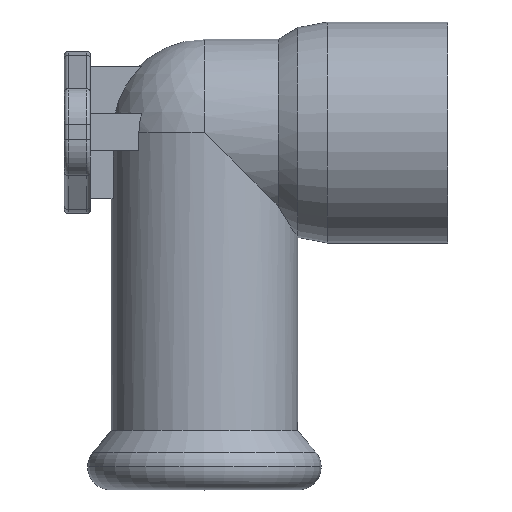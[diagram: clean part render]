
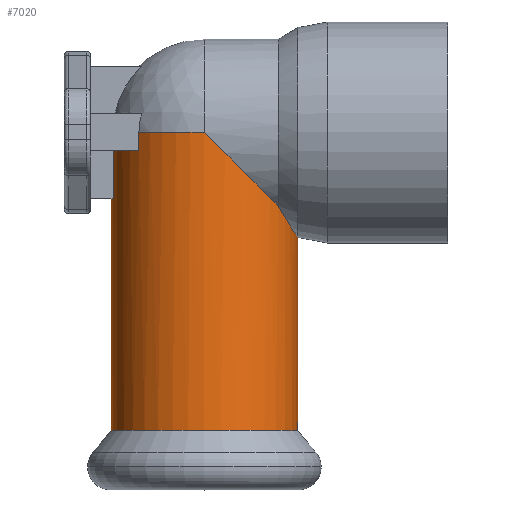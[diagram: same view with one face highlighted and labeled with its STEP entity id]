
A CAD part, top view. The second image highlights one B-rep face of the part: STEP entity #7020.
In plain terms, the highlighted cylindrical face has radius 12.65 mm (diameter 25.3 mm), a partial arc.
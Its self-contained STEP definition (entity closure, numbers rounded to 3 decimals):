
#5080=CARTESIAN_POINT('',(-306.641,56.893,0.));
#5090=VERTEX_POINT('',#5080);
#5270=CARTESIAN_POINT('',(-331.941,56.893,
0.));
#5280=VERTEX_POINT('',#5270);
#5310=CARTESIAN_POINT('',(-319.291,56.893,0.));
#5320=DIRECTION('',(0.,1.,0.));
#5330=DIRECTION('',(-1.,0.,0.));
#5340=AXIS2_PLACEMENT_3D('',#5310,#5320,#5330);
#5350=CIRCLE('',#5340,12.65);
#5360=EDGE_CURVE('',#5090,#5280,#5350,.T.);
#5410=CARTESIAN_POINT('',(-319.291,50.141,0.));
#5420=DIRECTION('',(0.,-1.,0.));
#5430=DIRECTION('',(-1.,0.,0.));
#5440=AXIS2_PLACEMENT_3D('',#5410,#5420,#5430);
#5450=CYLINDRICAL_SURFACE('',#5440,12.65);
#5460=CARTESIAN_POINT('',(-319.291,16.435,0.));
#5470=DIRECTION('',(0.707,-0.707,0.));
#5480=DIRECTION('',(-0.707,-0.707,0.));
#5490=AXIS2_PLACEMENT_3D('',#5460,#5470,#5480);
#5500=ELLIPSE('',#5490,17.89,12.65);
#5510=CARTESIAN_POINT('',(-319.291,16.435,-12.65));
#5520=VERTEX_POINT('',#5510);
#5530=CARTESIAN_POINT('',(-309.291,26.435,
-7.747));
#5540=VERTEX_POINT('',#5530);
#5550=EDGE_CURVE('',#5520,#5540,#5500,.T.);
#5560=ORIENTED_EDGE('',*,*,#5550,.F.);
#5570=CARTESIAN_POINT('',(-306.591,16.435,0.));
#5580=DIRECTION('',(1.,0.,0.));
#5590=DIRECTION('',(0.,1.,0.));
#5600=AXIS2_PLACEMENT_3D('',#5570,#5580,#5590);
#5610=CONICAL_SURFACE('',#5600,14.25,0.535);
#5620=CARTESIAN_POINT('',(-309.291,26.435,
-7.747));
#5630=CARTESIAN_POINT('',(-309.207,26.581,
-7.639));
#5640=CARTESIAN_POINT('',(-309.124,26.726,
-7.528));
#5650=CARTESIAN_POINT('',(-309.041,26.867,
-7.413));
#5660=CARTESIAN_POINT('',(-308.958,27.009,
-7.298));
#5670=CARTESIAN_POINT('',(-308.875,27.148,
-7.18));
#5680=CARTESIAN_POINT('',(-308.794,27.285,
-7.059));
#5690=CARTESIAN_POINT('',(-308.753,27.353,
-6.999));
#5700=CARTESIAN_POINT('',(-308.713,27.421,
-6.937));
#5710=CARTESIAN_POINT('',(-308.672,27.488,
-6.875));
#5720=CARTESIAN_POINT('',(-308.632,27.554,
-6.813));
#5730=CARTESIAN_POINT('',(-308.592,27.621,
-6.75));
#5740=CARTESIAN_POINT('',(-308.552,27.686,
-6.685));
#5750=CARTESIAN_POINT('',(-308.472,27.817,
-6.557));
#5760=CARTESIAN_POINT('',(-308.393,27.946,
-6.425));
#5770=CARTESIAN_POINT('',(-308.315,28.072,
-6.29));
#5780=CARTESIAN_POINT('',(-308.238,28.198,
-6.154));
#5790=CARTESIAN_POINT('',(-308.161,28.32,
-6.014));
#5800=CARTESIAN_POINT('',(-308.086,28.44,
-5.871));
#5810=CARTESIAN_POINT('',(-308.011,28.559,
-5.728));
#5820=CARTESIAN_POINT('',(-307.937,28.676,
-5.581));
#5830=CARTESIAN_POINT('',(-307.866,28.788,
-5.43));
#5840=CARTESIAN_POINT('',(-307.794,28.901,
-5.28));
#5850=CARTESIAN_POINT('',(-307.725,29.009,
-5.126));
#5860=CARTESIAN_POINT('',(-307.658,29.114,
-4.968));
#5870=CARTESIAN_POINT('',(-307.59,29.218,
-4.811));
#5880=CARTESIAN_POINT('',(-307.525,29.319,
-4.65));
#5890=CARTESIAN_POINT('',(-307.463,29.414,
-4.486));
#5900=CARTESIAN_POINT('',(-307.432,29.462,
-4.404));
#5910=CARTESIAN_POINT('',(-307.402,29.509,
-4.321));
#5920=CARTESIAN_POINT('',(-307.372,29.555,
-4.237));
#5930=CARTESIAN_POINT('',(-307.357,29.577,
-4.195));
#5940=CARTESIAN_POINT('',(-307.342,29.6,
-4.153));
#5950=CARTESIAN_POINT('',(-307.328,29.622,
-4.111));
#5960=CARTESIAN_POINT('',(-307.313,29.644,
-4.069));
#5970=CARTESIAN_POINT('',(-307.299,29.666,
-4.026));
#5980=CARTESIAN_POINT('',(-307.285,29.688,
-3.983));
#5990=CARTESIAN_POINT('',(-307.256,29.731,
-3.898));
#6000=CARTESIAN_POINT('',(-307.229,29.773,
-3.811));
#6010=CARTESIAN_POINT('',(-307.202,29.814,
-3.724));
#6020=CARTESIAN_POINT('',(-307.175,29.855,
-3.637));
#6030=CARTESIAN_POINT('',(-307.149,29.895,
-3.548));
#6040=CARTESIAN_POINT('',(-307.123,29.933,
-3.459));
#6050=CARTESIAN_POINT('',(-307.098,29.971,
-3.37));
#6060=CARTESIAN_POINT('',(-307.073,30.008,
-3.28));
#6070=CARTESIAN_POINT('',(-307.05,30.044,
-3.189));
#6080=CARTESIAN_POINT('',(-307.026,30.08,
-3.098));
#6090=CARTESIAN_POINT('',(-307.003,30.114,
-3.007));
#6100=CARTESIAN_POINT('',(-306.981,30.147,
-2.915));
#6110=CARTESIAN_POINT('',(-306.96,30.18,
-2.822));
#6120=CARTESIAN_POINT('',(-306.939,30.211,
-2.729));
#6130=CARTESIAN_POINT('',(-306.919,30.241,
-2.636));
#6140=CARTESIAN_POINT('',(-306.899,30.271,
-2.542));
#6150=CARTESIAN_POINT('',(-306.88,30.299,
-2.448));
#6160=CARTESIAN_POINT('',(-306.862,30.326,
-2.353));
#6170=CARTESIAN_POINT('',(-306.826,30.38,
-2.164));
#6180=CARTESIAN_POINT('',(-306.794,30.427,
-1.972));
#6190=CARTESIAN_POINT('',(-306.767,30.468,
-1.778));
#6200=CARTESIAN_POINT('',(-306.753,30.489,
-1.682));
#6210=CARTESIAN_POINT('',(-306.74,30.508,
-1.584));
#6220=CARTESIAN_POINT('',(-306.729,30.525,
-1.487));
#6230=CARTESIAN_POINT('',(-306.717,30.542,
-1.389));
#6240=CARTESIAN_POINT('',(-306.707,30.557,
-1.291));
#6250=CARTESIAN_POINT('',(-306.697,30.571,
-1.192));
#6260=CARTESIAN_POINT('',(-306.688,30.585,
-1.094));
#6270=CARTESIAN_POINT('',(-306.68,30.597,
-0.995));
#6280=CARTESIAN_POINT('',(-306.673,30.608,
-0.896));
#6290=CARTESIAN_POINT('',(-306.666,30.618,
-0.797));
#6300=CARTESIAN_POINT('',(-306.66,30.627,
-0.698));
#6310=CARTESIAN_POINT('',(-306.655,30.634,
-0.598));
#6320=CARTESIAN_POINT('',(-306.65,30.641,
-0.499));
#6330=CARTESIAN_POINT('',(-306.647,30.646,
-0.399));
#6340=CARTESIAN_POINT('',(-306.645,30.65,
-0.299));
#6350=CARTESIAN_POINT('',(-306.642,30.653,
-0.2));
#6360=CARTESIAN_POINT('',(-306.641,30.655,
-0.1));
#6370=CARTESIAN_POINT('',(-306.641,30.655,
0.));
#6380=B_SPLINE_CURVE_WITH_KNOTS('',3,(#5620,#5630,#5640,#5650,#5660,
#5670,#5680,#5690,#5700,#5710,#5720,#5730,#5740,#5750,#5760,#5770,#5780,
#5790,#5800,#5810,#5820,#5830,#5840,#5850,#5860,#5870,#5880,#5890,#5900,
#5910,#5920,#5930,#5940,#5950,#5960,#5970,#5980,#5990,#6000,#6010,#6020,
#6030,#6040,#6050,#6060,#6070,#6080,#6090,#6100,#6110,#6120,#6130,#6140,
#6150,#6160,#6170,#6180,#6190,#6200,#6210,#6220,#6230,#6240,#6250,#6260,
#6270,#6280,#6290,#6300,#6310,#6320,#6330,#6340,#6350,#6360,#6370),
.UNSPECIFIED.,.F.,.F.,(4,3,3,3,3,3,3,3,3,3,3,3,3,3,3,3,3,3,3,3,3,3,3,3,3
,4),(0.,0.602,1.202,1.502,
1.801,2.403,3.006,3.609,
4.211,4.812,5.112,5.262,
5.412,5.712,6.013,6.314,
6.615,6.916,7.216,7.816,
8.116,8.415,8.715,9.014,
9.314,9.613),.UNSPECIFIED.);
#6390=SURFACE_CURVE('',#6380,(#5450,#5610),.CURVE_3D.);
#6400=CARTESIAN_POINT('',(-306.641,30.655,
0.));
#6410=VERTEX_POINT('',#6400);
#6420=EDGE_CURVE('',#5540,#6410,#6390,.T.);
#6430=ORIENTED_EDGE('',*,*,#6420,.F.);
#6440=CARTESIAN_POINT('',(-306.641,50.141,
0.));
#6450=DIRECTION('',(0.,-1.,0.));
#6460=VECTOR('',#6450,1.);
#6470=LINE('',#6440,#6460);
#6480=EDGE_CURVE('',#5090,#6410,#6470,.T.);
#6490=ORIENTED_EDGE('',*,*,#6480,.T.);
#6500=ORIENTED_EDGE('',*,*,#5360,.F.);
#6510=CARTESIAN_POINT('',(-331.941,50.141,0.));
#6520=DIRECTION('',(0.,-1.,0.));
#6530=VECTOR('',#6520,1.);
#6540=LINE('',#6510,#6530);
#6550=CARTESIAN_POINT('',(-331.941,25.435,0.));
#6560=VERTEX_POINT('',#6550);
#6570=EDGE_CURVE('',#5280,#6560,#6540,.T.);
#6580=ORIENTED_EDGE('',*,*,#6570,.F.);
#6590=CARTESIAN_POINT('',(-319.291,25.435,0.));
#6600=DIRECTION('',(0.,-1.,0.));
#6610=DIRECTION('',(-1.,0.,0.));
#6620=AXIS2_PLACEMENT_3D('',#6590,#6600,#6610);
#6630=CIRCLE('',#6620,12.65);
#6640=CARTESIAN_POINT('',(-331.692,25.435,-2.5));
#6650=VERTEX_POINT('',#6640);
#6660=EDGE_CURVE('',#6560,#6650,#6630,.T.);
#6670=ORIENTED_EDGE('',*,*,#6660,.F.);
#6680=CARTESIAN_POINT('',(-331.692,50.141,-2.5));
#6690=DIRECTION('',(0.,-1.,0.));
#6700=VECTOR('',#6690,1.);
#6710=LINE('',#6680,#6700);
#6720=CARTESIAN_POINT('',(-331.692,18.935,-2.5));
#6730=VERTEX_POINT('',#6720);
#6740=EDGE_CURVE('',#6650,#6730,#6710,.T.);
#6750=ORIENTED_EDGE('',*,*,#6740,.F.);
#6760=CARTESIAN_POINT('',(-319.291,18.935,0.));
#6770=DIRECTION('',(0.,-1.,0.));
#6780=DIRECTION('',(-1.,0.,0.));
#6790=AXIS2_PLACEMENT_3D('',#6760,#6770,#6780);
#6800=CIRCLE('',#6790,12.65);
#6810=CARTESIAN_POINT('',(-328.181,18.935,-9.));
#6820=VERTEX_POINT('',#6810);
#6830=EDGE_CURVE('',#6730,#6820,#6800,.T.);
#6840=ORIENTED_EDGE('',*,*,#6830,.F.);
#6850=CARTESIAN_POINT('',(-328.181,50.141,-9.));
#6860=DIRECTION('',(0.,-1.,0.));
#6870=VECTOR('',#6860,1.);
#6880=LINE('',#6850,#6870);
#6890=CARTESIAN_POINT('',(-328.181,16.435,
-9.));
#6900=VERTEX_POINT('',#6890);
#6910=EDGE_CURVE('',#6820,#6900,#6880,.T.);
#6920=ORIENTED_EDGE('',*,*,#6910,.F.);
#6930=CARTESIAN_POINT('',(-319.291,16.435,
0.));
#6940=DIRECTION('',(0.,1.,0.));
#6950=DIRECTION('',(1.,0.,0.));
#6960=AXIS2_PLACEMENT_3D('',#6930,#6940,#6950);
#6970=CIRCLE('',#6960,12.65);
#6980=EDGE_CURVE('',#5520,#6900,#6970,.T.);
#6990=ORIENTED_EDGE('',*,*,#6980,.T.);
#7000=EDGE_LOOP('',(#6990,#6920,#6840,#6750,#6670,#6580,#6500,#6490,
#6430,#5560));
#7010=FACE_OUTER_BOUND('',#7000,.T.);
#7020=ADVANCED_FACE('',(#7010),#5450,.T.);
